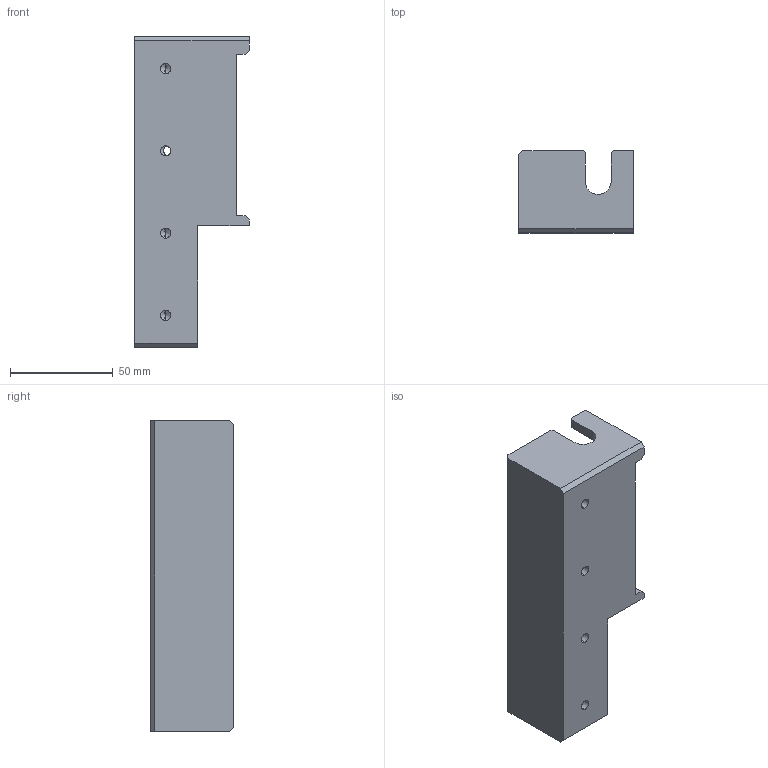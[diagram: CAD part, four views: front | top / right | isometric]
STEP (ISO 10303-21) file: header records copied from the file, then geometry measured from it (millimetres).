
FILE_DESCRIPTION (( 'STEP AP214' ), '1' );
FILE_NAME ('GZ30.11_V1 VDC阀定位块.STEP', '2021-06-04T09:10:26', ( '微软中国' ), ( 'Microsoft' ), 'SwSTEP 2.0', 'SolidWorks 2017', '' );
FILE_SCHEMA (( 'AUTOMOTIVE_DESIGN' ));
Length unit declared in the file: millimetre
Products named in the file (1): GZ30.11_V1 VDC概隅弇輸
Bounding box: 55.6 x 40 x 151 mm (x, y, z)
Volume: 181677.2 mm3; surface area: 35023 mm2
Topology: 1 solids, 1 shells, 103 faces, 277 edges, 167 vertices
Faces by surface type: plane 50, cylinder 32, cone 21
Entity records: 3394 total; most frequent: CARTESIAN_POINT 614, DIRECTION 526, ORIENTED_EDGE 518, EDGE_CURVE 259, LINE 184, VECTOR 184, AXIS2_PLACEMENT_3D 171, VERTEX_POINT 167
